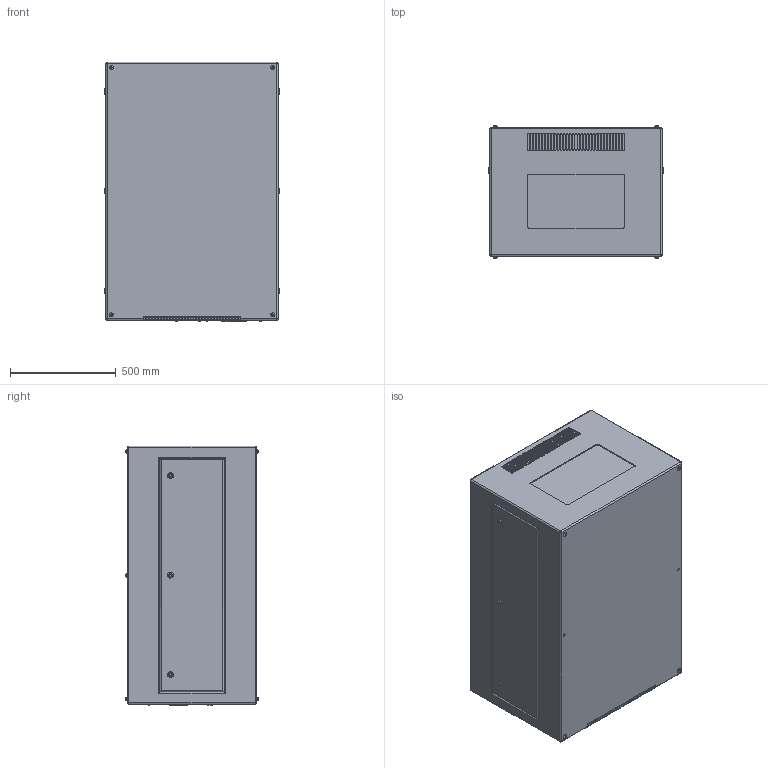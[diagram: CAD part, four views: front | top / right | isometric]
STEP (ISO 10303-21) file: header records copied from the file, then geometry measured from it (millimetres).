
FILE_DESCRIPTION (( 'STEP AP214' ), '1' );
FILE_NAME ('Zen 57.150.L R11 Landscape Hush Enclosure.STEP', '2021-08-13T19:08:14', ( '' ), ( '' ), 'SwSTEP 2.0', 'SolidWorks 2020', '' );
FILE_SCHEMA (( 'AUTOMOTIVE_DESIGN' ));
Length unit declared in the file: inch
Products named in the file (1): Zen 57.150.L R11 Landscape Hush Enclosure
Bounding box: 825.5 x 624.33 x 1226.82 mm (x, y, z)
Volume: 602240817 mm3; surface area: 4915165.1 mm2
Topology: 1 solids, 1 shells, 1125 faces, 2838 edges, 1746 vertices
Faces by surface type: plane 515, cylinder 484, sphere 74, torus 52
Entity records: 36313 total; most frequent: DIRECTION 6040, CARTESIAN_POINT 5684, ORIENTED_EDGE 5528, EDGE_CURVE 2764, AXIS2_PLACEMENT_3D 2166, VERTEX_POINT 1746, LINE 1708, VECTOR 1708
